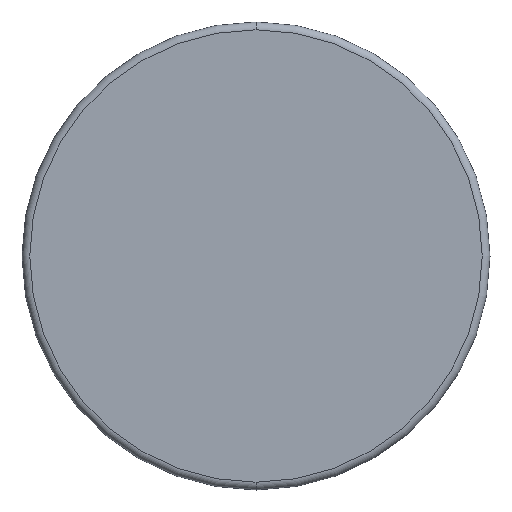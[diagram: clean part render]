
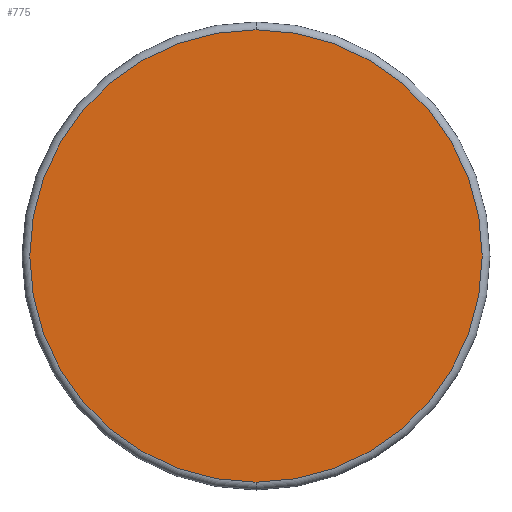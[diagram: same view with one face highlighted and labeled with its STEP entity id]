
A CAD part, front view. The second image highlights one B-rep face of the part: STEP entity #775.
In plain terms, the highlighted planar face has unit normal (0, -1, 0).
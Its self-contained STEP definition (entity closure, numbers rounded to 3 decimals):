
#11 = AXIS2_PLACEMENT_3D ( 'NONE', #949, #483, #852 ) ;
#85 = DIRECTION ( 'NONE',  ( 0., 0., 1. ) ) ;
#112 = EDGE_CURVE ( 'NONE', #575, #1050, #319, .T. ) ;
#130 = AXIS2_PLACEMENT_3D ( 'NONE', #732, #905, #273 ) ;
#273 = DIRECTION ( 'NONE',  ( 0., 0., -1. ) ) ;
#291 = CARTESIAN_POINT ( 'NONE',  ( 0., 0., -29. ) ) ;
#297 = AXIS2_PLACEMENT_3D ( 'NONE', #812, #724, #85 ) ;
#319 = CIRCLE ( 'NONE', #11, 29. ) ;
#354 = ORIENTED_EDGE ( 'NONE', *, *, #793, .T. ) ;
#483 = DIRECTION ( 'NONE',  ( 0., -1., 0. ) ) ;
#516 = EDGE_LOOP ( 'NONE', ( #975, #354 ) ) ;
#519 = PLANE ( 'NONE',  #297 ) ;
#575 = VERTEX_POINT ( 'NONE', #291 ) ;
#724 = DIRECTION ( 'NONE',  ( 0., 1., 0. ) ) ;
#732 = CARTESIAN_POINT ( 'NONE',  ( 0., 0., 0. ) ) ;
#775 = ADVANCED_FACE ( 'NONE', ( #898 ), #519, .F. ) ;
#793 = EDGE_CURVE ( 'NONE', #1050, #575, #1166, .T. ) ;
#812 = CARTESIAN_POINT ( 'NONE',  ( 0., 0., 0. ) ) ;
#839 = CARTESIAN_POINT ( 'NONE',  ( 0., 0., 29. ) ) ;
#852 = DIRECTION ( 'NONE',  ( 0., 0., -1. ) ) ;
#898 = FACE_OUTER_BOUND ( 'NONE', #516, .T. ) ;
#905 = DIRECTION ( 'NONE',  ( 0., -1., 0. ) ) ;
#949 = CARTESIAN_POINT ( 'NONE',  ( 0., 0., 0. ) ) ;
#975 = ORIENTED_EDGE ( 'NONE', *, *, #112, .T. ) ;
#1050 = VERTEX_POINT ( 'NONE', #839 ) ;
#1166 = CIRCLE ( 'NONE', #130, 29. ) ;
